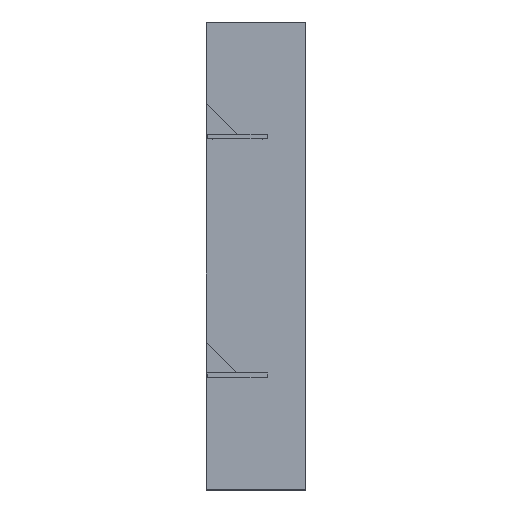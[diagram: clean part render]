
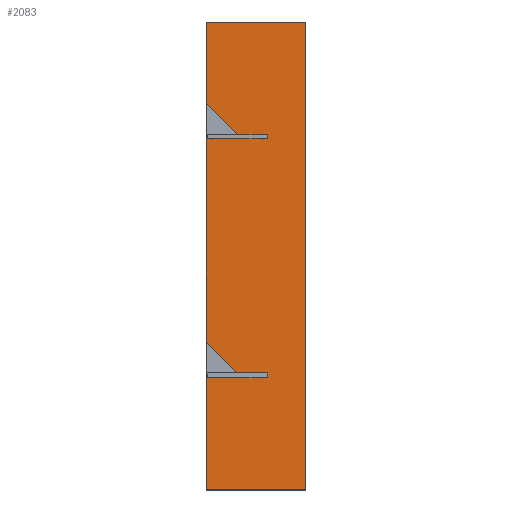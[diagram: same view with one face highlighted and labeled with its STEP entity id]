
A CAD part, left-side view. The second image highlights one B-rep face of the part: STEP entity #2083.
In plain terms, the highlighted planar face has unit normal (-1, 0, 0) as drawn and (0, 0, 1) by its records, which use the part's own axes.
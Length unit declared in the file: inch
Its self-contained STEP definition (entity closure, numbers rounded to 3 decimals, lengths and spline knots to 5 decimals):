
#139=FACE_OUTER_BOUND('',#243,.T.);
#243=EDGE_LOOP('',(#1759,#1760,#1761,#1762,#1763,#1764,#1765,#1766,#1767,
#1768,#1769,#1770,#1771,#1772,#1773,#1774,#1775,#1776));
#477=LINE('',#3226,#765);
#481=LINE('',#3233,#769);
#484=LINE('',#3239,#772);
#487=LINE('',#3247,#775);
#491=LINE('',#3254,#779);
#493=LINE('',#3257,#781);
#494=LINE('',#3260,#782);
#495=LINE('',#3262,#783);
#496=LINE('',#3264,#784);
#497=LINE('',#3266,#785);
#498=LINE('',#3268,#786);
#499=LINE('',#3270,#787);
#500=LINE('',#3272,#788);
#501=LINE('',#3274,#789);
#502=LINE('',#3276,#790);
#503=LINE('',#3278,#791);
#504=LINE('',#3280,#792);
#505=LINE('',#3281,#793);
#765=VECTOR('',#2638,0.3937);
#769=VECTOR('',#2644,0.3937);
#772=VECTOR('',#2649,0.3937);
#775=VECTOR('',#2654,0.3937);
#779=VECTOR('',#2660,0.3937);
#781=VECTOR('',#2664,0.3937);
#782=VECTOR('',#2667,0.3937);
#783=VECTOR('',#2668,0.3937);
#784=VECTOR('',#2669,0.3937);
#785=VECTOR('',#2670,0.3937);
#786=VECTOR('',#2671,0.3937);
#787=VECTOR('',#2672,0.3937);
#788=VECTOR('',#2673,0.3937);
#789=VECTOR('',#2674,0.3937);
#790=VECTOR('',#2675,0.3937);
#791=VECTOR('',#2676,0.3937);
#792=VECTOR('',#2677,0.3937);
#793=VECTOR('',#2678,0.3937);
#985=VERTEX_POINT('',#3223);
#986=VERTEX_POINT('',#3225);
#988=VERTEX_POINT('',#3231);
#990=VERTEX_POINT('',#3237);
#993=VERTEX_POINT('',#3244);
#994=VERTEX_POINT('',#3246);
#996=VERTEX_POINT('',#3252);
#997=VERTEX_POINT('',#3259);
#998=VERTEX_POINT('',#3261);
#999=VERTEX_POINT('',#3263);
#1000=VERTEX_POINT('',#3265);
#1001=VERTEX_POINT('',#3267);
#1002=VERTEX_POINT('',#3269);
#1003=VERTEX_POINT('',#3271);
#1004=VERTEX_POINT('',#3273);
#1005=VERTEX_POINT('',#3275);
#1006=VERTEX_POINT('',#3277);
#1007=VERTEX_POINT('',#3279);
#1245=EDGE_CURVE('',#986,#985,#477,.T.);
#1249=EDGE_CURVE('',#985,#988,#481,.T.);
#1252=EDGE_CURVE('',#988,#990,#484,.T.);
#1255=EDGE_CURVE('',#994,#993,#487,.T.);
#1259=EDGE_CURVE('',#993,#996,#491,.T.);
#1261=EDGE_CURVE('',#996,#986,#493,.T.);
#1262=EDGE_CURVE('',#990,#997,#494,.T.);
#1263=EDGE_CURVE('',#997,#998,#495,.T.);
#1264=EDGE_CURVE('',#998,#999,#496,.T.);
#1265=EDGE_CURVE('',#999,#1000,#497,.T.);
#1266=EDGE_CURVE('',#1000,#1001,#498,.T.);
#1267=EDGE_CURVE('',#1001,#1002,#499,.T.);
#1268=EDGE_CURVE('',#1002,#1003,#500,.T.);
#1269=EDGE_CURVE('',#1003,#1004,#501,.T.);
#1270=EDGE_CURVE('',#1004,#1005,#502,.T.);
#1271=EDGE_CURVE('',#1005,#1006,#503,.T.);
#1272=EDGE_CURVE('',#1006,#1007,#504,.T.);
#1273=EDGE_CURVE('',#1007,#994,#505,.T.);
#1759=ORIENTED_EDGE('',*,*,#1255,.T.);
#1760=ORIENTED_EDGE('',*,*,#1259,.T.);
#1761=ORIENTED_EDGE('',*,*,#1261,.T.);
#1762=ORIENTED_EDGE('',*,*,#1245,.T.);
#1763=ORIENTED_EDGE('',*,*,#1249,.T.);
#1764=ORIENTED_EDGE('',*,*,#1252,.T.);
#1765=ORIENTED_EDGE('',*,*,#1262,.T.);
#1766=ORIENTED_EDGE('',*,*,#1263,.T.);
#1767=ORIENTED_EDGE('',*,*,#1264,.T.);
#1768=ORIENTED_EDGE('',*,*,#1265,.T.);
#1769=ORIENTED_EDGE('',*,*,#1266,.T.);
#1770=ORIENTED_EDGE('',*,*,#1267,.T.);
#1771=ORIENTED_EDGE('',*,*,#1268,.T.);
#1772=ORIENTED_EDGE('',*,*,#1269,.T.);
#1773=ORIENTED_EDGE('',*,*,#1270,.T.);
#1774=ORIENTED_EDGE('',*,*,#1271,.T.);
#1775=ORIENTED_EDGE('',*,*,#1272,.T.);
#1776=ORIENTED_EDGE('',*,*,#1273,.T.);
#1979=PLANE('',#2246);
#2083=ADVANCED_FACE('',(#139),#1979,.T.);
#2246=AXIS2_PLACEMENT_3D('',#3258,#2665,#2666);
#2638=DIRECTION('',(0.,1.,0.));
#2644=DIRECTION('',(1.,0.,0.));
#2649=DIRECTION('',(0.,1.,0.));
#2654=DIRECTION('',(-0.703,-0.711,0.));
#2660=DIRECTION('',(0.,-1.,0.));
#2664=DIRECTION('',(-1.,0.,0.));
#2665=DIRECTION('center_axis',(0.,0.,1.));
#2666=DIRECTION('ref_axis',(1.,0.,0.));
#2667=DIRECTION('',(-1.,0.,0.));
#2668=DIRECTION('',(-0.703,-0.711,0.));
#2669=DIRECTION('',(0.,-1.,0.));
#2670=DIRECTION('',(-1.,0.,0.));
#2671=DIRECTION('',(0.,1.,0.));
#2672=DIRECTION('',(1.,0.,0.));
#2673=DIRECTION('',(0.,1.,0.));
#2674=DIRECTION('',(-1.,0.,0.));
#2675=DIRECTION('',(0.,-1.,0.));
#2676=DIRECTION('',(1.,0.,0.));
#2677=DIRECTION('',(0.,1.,0.));
#2678=DIRECTION('',(-1.,0.,0.));
#3223=CARTESIAN_POINT('',(35.25,9.375,0.48));
#3225=CARTESIAN_POINT('',(35.25,4.375,0.48));
#3226=CARTESIAN_POINT('',(35.25,7.1875,0.48));
#3231=CARTESIAN_POINT('',(35.495,9.375,0.48));
#3233=CARTESIAN_POINT('',(29.4975,9.375,0.48));
#3237=CARTESIAN_POINT('',(35.495,10.,0.48));
#3239=CARTESIAN_POINT('',(35.495,7.5,0.48));
#3244=CARTESIAN_POINT('',(35.75,6.875,0.48));
#3246=CARTESIAN_POINT('',(38.8409,10.,0.48));
#3247=CARTESIAN_POINT('',(32.25238,3.33879,0.48));
#3252=CARTESIAN_POINT('',(35.75,4.375,0.48));
#3254=CARTESIAN_POINT('',(35.75,4.6875,0.48));
#3257=CARTESIAN_POINT('',(29.375,4.375,0.48));
#3258=CARTESIAN_POINT('Origin',(23.5,5.,0.48));
#3259=CARTESIAN_POINT('',(14.8409,10.,0.48));
#3260=CARTESIAN_POINT('',(47.,10.,0.48));
#3261=CARTESIAN_POINT('',(11.75,6.875,0.48));
#3262=CARTESIAN_POINT('',(14.18655,9.33843,0.48));
#3263=CARTESIAN_POINT('',(11.75,4.375,0.48));
#3264=CARTESIAN_POINT('',(11.75,4.6875,0.48));
#3265=CARTESIAN_POINT('',(11.25,4.375,0.48));
#3266=CARTESIAN_POINT('',(17.375,4.375,0.48));
#3267=CARTESIAN_POINT('',(11.25,9.375,0.48));
#3268=CARTESIAN_POINT('',(11.25,7.1875,0.48));
#3269=CARTESIAN_POINT('',(11.495,9.375,0.48));
#3270=CARTESIAN_POINT('',(17.4975,9.375,0.48));
#3271=CARTESIAN_POINT('',(11.495,10.,0.48));
#3272=CARTESIAN_POINT('',(11.495,7.5,0.48));
#3273=CARTESIAN_POINT('',(0.,10.,0.48));
#3274=CARTESIAN_POINT('',(47.,10.,0.48));
#3275=CARTESIAN_POINT('',(0.,0.,0.48));
#3276=CARTESIAN_POINT('',(0.,10.,0.48));
#3277=CARTESIAN_POINT('',(47.,0.,0.48));
#3278=CARTESIAN_POINT('',(0.,0.,0.48));
#3279=CARTESIAN_POINT('',(47.,10.,0.48));
#3280=CARTESIAN_POINT('',(47.,0.,0.48));
#3281=CARTESIAN_POINT('',(47.,10.,0.48));
